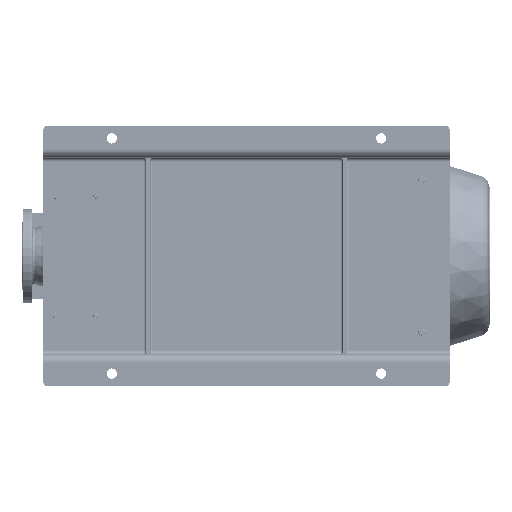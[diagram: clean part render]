
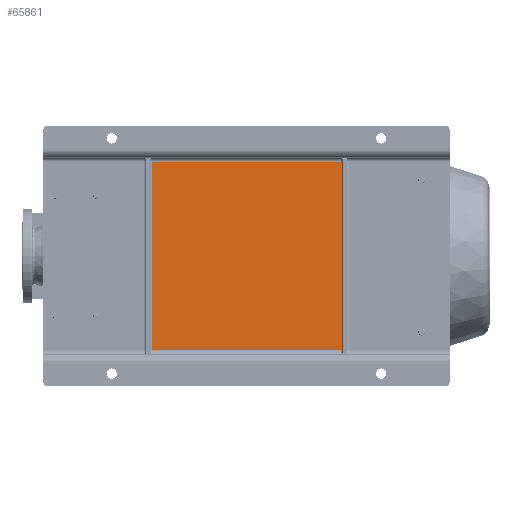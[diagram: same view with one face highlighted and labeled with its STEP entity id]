
A CAD part, front view. The second image highlights one B-rep face of the part: STEP entity #65861.
In plain terms, the highlighted planar face has unit normal (0, -1, 0).
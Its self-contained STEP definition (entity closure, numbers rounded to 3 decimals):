
#10 = LINE ( 'NONE', #23757, #18438 ) ;
#597 = EDGE_CURVE ( 'NONE', #104647, #97550, #132705, .T. ) ;
#738 = DIRECTION ( 'NONE',  ( 0., 0., -1. ) ) ;
#8602 = AXIS2_PLACEMENT_3D ( 'NONE', #92494, #67273, #9846 ) ;
#9846 = DIRECTION ( 'NONE',  ( 0., 0., -1. ) ) ;
#17166 = CARTESIAN_POINT ( 'NONE',  ( 75., 65., -695. ) ) ;
#18196 = VERTEX_POINT ( 'NONE', #39596 ) ;
#18438 = VECTOR ( 'NONE', #738, 1000. ) ;
#20439 = LINE ( 'NONE', #100018, #135972 ) ;
#23757 = CARTESIAN_POINT ( 'NONE',  ( 85., 65., -700. ) ) ;
#27743 = VECTOR ( 'NONE', #110456, 1000. ) ;
#28959 = VECTOR ( 'NONE', #100824, 1000. ) ;
#33708 = ORIENTED_EDGE ( 'NONE', *, *, #597, .T. ) ;
#39596 = CARTESIAN_POINT ( 'NONE',  ( 85., 65., -255. ) ) ;
#47269 = VERTEX_POINT ( 'NONE', #148441 ) ;
#54462 = EDGE_CURVE ( 'NONE', #18196, #104647, #10, .T. ) ;
#54867 = EDGE_LOOP ( 'NONE', ( #130821, #33708, #84573, #116892 ) ) ;
#65861 = ADVANCED_FACE ( 'NONE', ( #125369 ), #78750, .T. ) ;
#67273 = DIRECTION ( 'NONE',  ( 0., -1., 0. ) ) ;
#69347 = EDGE_CURVE ( 'NONE', #97550, #47269, #20439, .T. ) ;
#75966 = CARTESIAN_POINT ( 'NONE',  ( 525., 65., -695. ) ) ;
#78750 = PLANE ( 'NONE',  #8602 ) ;
#84573 = ORIENTED_EDGE ( 'NONE', *, *, #69347, .T. ) ;
#89328 = EDGE_CURVE ( 'NONE', #47269, #18196, #123776, .T. ) ;
#92494 = CARTESIAN_POINT ( 'NONE',  ( 75., 65., -950. ) ) ;
#97550 = VERTEX_POINT ( 'NONE', #75966 ) ;
#100018 = CARTESIAN_POINT ( 'NONE',  ( 525., 65., -250. ) ) ;
#100824 = DIRECTION ( 'NONE',  ( -1., 0., 0. ) ) ;
#104647 = VERTEX_POINT ( 'NONE', #125565 ) ;
#110456 = DIRECTION ( 'NONE',  ( 1., 0., 0. ) ) ;
#111512 = CARTESIAN_POINT ( 'NONE',  ( 75., 65., -255. ) ) ;
#116892 = ORIENTED_EDGE ( 'NONE', *, *, #89328, .T. ) ;
#123776 = LINE ( 'NONE', #111512, #28959 ) ;
#125369 = FACE_OUTER_BOUND ( 'NONE', #54867, .T. ) ;
#125565 = CARTESIAN_POINT ( 'NONE',  ( 85., 65., -695. ) ) ;
#125990 = DIRECTION ( 'NONE',  ( 0., 0., 1. ) ) ;
#130821 = ORIENTED_EDGE ( 'NONE', *, *, #54462, .T. ) ;
#132705 = LINE ( 'NONE', #17166, #27743 ) ;
#135972 = VECTOR ( 'NONE', #125990, 1000. ) ;
#148441 = CARTESIAN_POINT ( 'NONE',  ( 525., 65., -255. ) ) ;
